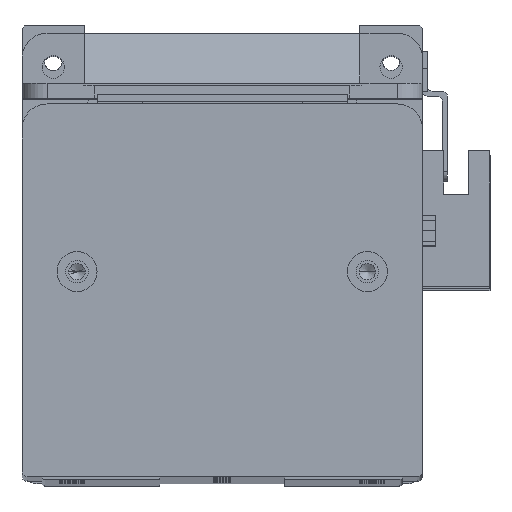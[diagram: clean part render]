
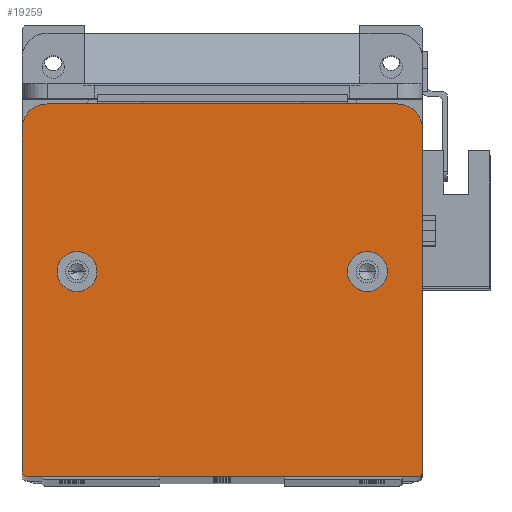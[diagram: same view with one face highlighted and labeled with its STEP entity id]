
A CAD part, top view. The second image highlights one B-rep face of the part: STEP entity #19259.
In plain terms, the highlighted planar face has unit normal (0, 0, 1).
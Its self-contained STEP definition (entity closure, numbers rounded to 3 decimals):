
#97 = CARTESIAN_POINT ( 'NONE',  ( 1., 0., 10. ) ) ;
#186 = PLANE ( 'NONE',  #24865 ) ;
#562 = VERTEX_POINT ( 'NONE', #18400 ) ;
#903 = CARTESIAN_POINT ( 'NONE',  ( 0., 74.5, 10. ) ) ;
#1180 = VERTEX_POINT ( 'NONE', #97 ) ;
#1668 = AXIS2_PLACEMENT_3D ( 'NONE', #19587, #6700, #21777 ) ;
#1977 = CARTESIAN_POINT ( 'NONE',  ( 69., 41., 10. ) ) ;
#2149 = EDGE_CURVE ( 'NONE', #1180, #5289, #27753, .T. ) ;
#2260 = DIRECTION ( 'NONE',  ( 0., 1., 0. ) ) ;
#2868 = EDGE_CURVE ( 'NONE', #27803, #5901, #27583, .T. ) ;
#2907 = ORIENTED_EDGE ( 'NONE', *, *, #7294, .F. ) ;
#2932 = ORIENTED_EDGE ( 'NONE', *, *, #10291, .F. ) ;
#3622 = CIRCLE ( 'NONE', #8693, 4. ) ;
#3798 = EDGE_CURVE ( 'NONE', #19284, #10691, #28254, .T. ) ;
#3809 = ORIENTED_EDGE ( 'NONE', *, *, #28233, .T. ) ;
#4006 = CIRCLE ( 'NONE', #1668, 5. ) ;
#4210 = DIRECTION ( 'NONE',  ( 1., 0., 0. ) ) ;
#4371 = CARTESIAN_POINT ( 'NONE',  ( 11., 41., 10. ) ) ;
#4761 = EDGE_LOOP ( 'NONE', ( #2932, #12394 ) ) ;
#5289 = VERTEX_POINT ( 'NONE', #20857 ) ;
#5334 = DIRECTION ( 'NONE',  ( 0., -1., 0. ) ) ;
#5401 = CARTESIAN_POINT ( 'NONE',  ( 80., 69.5, 10. ) ) ;
#5465 = AXIS2_PLACEMENT_3D ( 'NONE', #4371, #19434, #6551 ) ;
#5880 = EDGE_LOOP ( 'NONE', ( #8918, #6524, #12641, #3809, #24546, #19503, #19274, #13225 ) ) ;
#5889 = CARTESIAN_POINT ( 'NONE',  ( 0., 0., 10. ) ) ;
#5901 = VERTEX_POINT ( 'NONE', #16788 ) ;
#6524 = ORIENTED_EDGE ( 'NONE', *, *, #2868, .T. ) ;
#6551 = DIRECTION ( 'NONE',  ( 1., 0., 0. ) ) ;
#6627 = DIRECTION ( 'NONE',  ( 1., 0., 0. ) ) ;
#6700 = DIRECTION ( 'NONE',  ( 0., 0., 1. ) ) ;
#6743 = LINE ( 'NONE', #15316, #12637 ) ;
#6920 = CARTESIAN_POINT ( 'NONE',  ( 0., 0., 10. ) ) ;
#6963 = CARTESIAN_POINT ( 'NONE',  ( 1., 1., 10. ) ) ;
#7042 = DIRECTION ( 'NONE',  ( 0., 0., 1. ) ) ;
#7292 = DIRECTION ( 'NONE',  ( 0., 0., 1. ) ) ;
#7294 = EDGE_CURVE ( 'NONE', #22375, #12766, #18252, .T. ) ;
#8632 = EDGE_CURVE ( 'NONE', #26400, #9966, #20830, .T. ) ;
#8688 = AXIS2_PLACEMENT_3D ( 'NONE', #13709, #13672, #13577 ) ;
#8693 = AXIS2_PLACEMENT_3D ( 'NONE', #1977, #17112, #4210 ) ;
#8918 = ORIENTED_EDGE ( 'NONE', *, *, #22189, .T. ) ;
#9181 = DIRECTION ( 'NONE',  ( 0., 0., 1. ) ) ;
#9224 = DIRECTION ( 'NONE',  ( 1., 0., 0. ) ) ;
#9966 = VERTEX_POINT ( 'NONE', #15856 ) ;
#10291 = EDGE_CURVE ( 'NONE', #10691, #19284, #3622, .T. ) ;
#10370 = EDGE_LOOP ( 'NONE', ( #2907, #20983 ) ) ;
#10691 = VERTEX_POINT ( 'NONE', #16469 ) ;
#10808 = CARTESIAN_POINT ( 'NONE',  ( 69., 41., 10. ) ) ;
#11391 = VERTEX_POINT ( 'NONE', #23769 ) ;
#12394 = ORIENTED_EDGE ( 'NONE', *, *, #3798, .F. ) ;
#12637 = VECTOR ( 'NONE', #2260, 1000. ) ;
#12641 = ORIENTED_EDGE ( 'NONE', *, *, #16790, .T. ) ;
#12766 = VERTEX_POINT ( 'NONE', #18244 ) ;
#13002 = DIRECTION ( 'NONE',  ( 1., 0., 0. ) ) ;
#13225 = ORIENTED_EDGE ( 'NONE', *, *, #13755, .T. ) ;
#13577 = DIRECTION ( 'NONE',  ( 1., 0., 0. ) ) ;
#13672 = DIRECTION ( 'NONE',  ( 0., 0., 1. ) ) ;
#13709 = CARTESIAN_POINT ( 'NONE',  ( 75., 69.5, 10. ) ) ;
#13755 = EDGE_CURVE ( 'NONE', #5289, #11391, #23194, .T. ) ;
#15316 = CARTESIAN_POINT ( 'NONE',  ( 80., 0., 10. ) ) ;
#15702 = CARTESIAN_POINT ( 'NONE',  ( 65., 41., 10. ) ) ;
#15740 = CARTESIAN_POINT ( 'NONE',  ( 15., 41., 10. ) ) ;
#15744 = CARTESIAN_POINT ( 'NONE',  ( 0., 69.5, 10. ) ) ;
#15856 = CARTESIAN_POINT ( 'NONE',  ( 0., 1., 10. ) ) ;
#16212 = AXIS2_PLACEMENT_3D ( 'NONE', #20154, #7292, #22364 ) ;
#16469 = CARTESIAN_POINT ( 'NONE',  ( 73., 41., 10. ) ) ;
#16788 = CARTESIAN_POINT ( 'NONE',  ( 75., 74.5, 10. ) ) ;
#16790 = EDGE_CURVE ( 'NONE', #5901, #562, #17421, .T. ) ;
#17023 = VECTOR ( 'NONE', #26362, 1000. ) ;
#17112 = DIRECTION ( 'NONE',  ( 0., 0., 1. ) ) ;
#17421 = LINE ( 'NONE', #24138, #17023 ) ;
#18244 = CARTESIAN_POINT ( 'NONE',  ( 7., 41., 10. ) ) ;
#18252 = CIRCLE ( 'NONE', #5465, 4. ) ;
#18400 = CARTESIAN_POINT ( 'NONE',  ( 5., 74.5, 10. ) ) ;
#19047 = FACE_OUTER_BOUND ( 'NONE', #5880, .T. ) ;
#19056 = FACE_BOUND ( 'NONE', #10370, .T. ) ;
#19084 = FACE_BOUND ( 'NONE', #4761, .T. ) ;
#19259 = ADVANCED_FACE ( 'NONE', ( #19084, #19056, #19047 ), #186, .T. ) ;
#19274 = ORIENTED_EDGE ( 'NONE', *, *, #2149, .T. ) ;
#19284 = VERTEX_POINT ( 'NONE', #15702 ) ;
#19422 = AXIS2_PLACEMENT_3D ( 'NONE', #10808, #25816, #13002 ) ;
#19434 = DIRECTION ( 'NONE',  ( 0., 0., 1. ) ) ;
#19503 = ORIENTED_EDGE ( 'NONE', *, *, #22275, .T. ) ;
#19587 = CARTESIAN_POINT ( 'NONE',  ( 5., 69.5, 10. ) ) ;
#19911 = CARTESIAN_POINT ( 'NONE',  ( 11., 41., 10. ) ) ;
#20154 = CARTESIAN_POINT ( 'NONE',  ( 79., 1., 10. ) ) ;
#20830 = LINE ( 'NONE', #903, #20853 ) ;
#20853 = VECTOR ( 'NONE', #5334, 1000. ) ;
#20857 = CARTESIAN_POINT ( 'NONE',  ( 79., 0., 10. ) ) ;
#20983 = ORIENTED_EDGE ( 'NONE', *, *, #23839, .F. ) ;
#21777 = DIRECTION ( 'NONE',  ( 1., 0., 0. ) ) ;
#21909 = CIRCLE ( 'NONE', #24386, 1. ) ;
#22036 = DIRECTION ( 'NONE',  ( 0., 0., 1. ) ) ;
#22117 = DIRECTION ( 'NONE',  ( 1., 0., 0. ) ) ;
#22189 = EDGE_CURVE ( 'NONE', #11391, #27803, #6743, .T. ) ;
#22275 = EDGE_CURVE ( 'NONE', #9966, #1180, #21909, .T. ) ;
#22364 = DIRECTION ( 'NONE',  ( 1., 0., 0. ) ) ;
#22375 = VERTEX_POINT ( 'NONE', #15740 ) ;
#23194 = CIRCLE ( 'NONE', #16212, 1. ) ;
#23769 = CARTESIAN_POINT ( 'NONE',  ( 80., 1., 10. ) ) ;
#23839 = EDGE_CURVE ( 'NONE', #12766, #22375, #23880, .T. ) ;
#23880 = CIRCLE ( 'NONE', #25009, 4. ) ;
#24138 = CARTESIAN_POINT ( 'NONE',  ( 80., 74.5, 10. ) ) ;
#24159 = DIRECTION ( 'NONE',  ( 1., 0., 0. ) ) ;
#24386 = AXIS2_PLACEMENT_3D ( 'NONE', #6963, #22036, #9224 ) ;
#24546 = ORIENTED_EDGE ( 'NONE', *, *, #8632, .T. ) ;
#24865 = AXIS2_PLACEMENT_3D ( 'NONE', #6920, #9181, #24159 ) ;
#25009 = AXIS2_PLACEMENT_3D ( 'NONE', #19911, #7042, #22117 ) ;
#25816 = DIRECTION ( 'NONE',  ( 0., 0., 1. ) ) ;
#26362 = DIRECTION ( 'NONE',  ( -1., 0., 0. ) ) ;
#26400 = VERTEX_POINT ( 'NONE', #15744 ) ;
#27583 = CIRCLE ( 'NONE', #8688, 5. ) ;
#27753 = LINE ( 'NONE', #5889, #27871 ) ;
#27803 = VERTEX_POINT ( 'NONE', #5401 ) ;
#27871 = VECTOR ( 'NONE', #6627, 1000. ) ;
#28233 = EDGE_CURVE ( 'NONE', #562, #26400, #4006, .T. ) ;
#28254 = CIRCLE ( 'NONE', #19422, 4. ) ;
